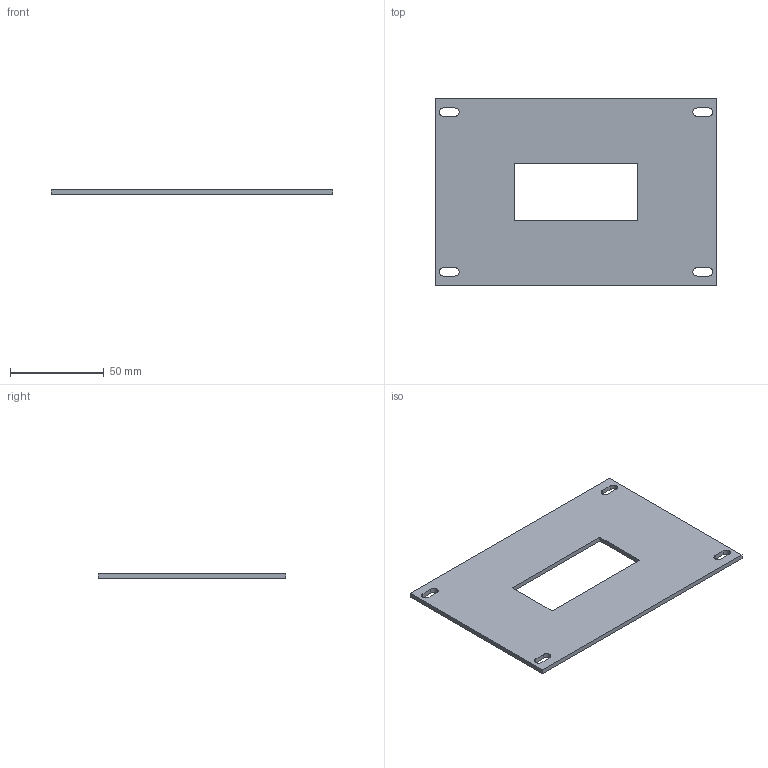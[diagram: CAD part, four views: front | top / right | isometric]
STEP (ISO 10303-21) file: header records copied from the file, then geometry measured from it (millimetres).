
FILE_DESCRIPTION(('Open CASCADE Model'),'2;1');
FILE_NAME('Open CASCADE Shape Model','2026-09-13T22:06:44',('Author'),( 'Open CASCADE'),'Open CASCADE STEP processor 7.9','Open CASCADE 7.9' ,'Unknown');
FILE_SCHEMA(('AUTOMOTIVE_DESIGN { 1 0 10303 214 1 1 1 1 }'));
Length unit declared in the file: millimetre
Products named in the file (1): Open CASCADE STEP translator 7.9 2
Bounding box: 150 x 100 x 2.5 mm (x, y, z)
Volume: 32121 mm3; surface area: 27688.1 mm2
Topology: 1 solids, 1 shells, 26 faces, 72 edges, 48 vertices
Faces by surface type: plane 18, cylinder 8
Entity records: 1798 total; most frequent: CARTESIAN_POINT 435, DIRECTION 222, ORIENTED_EDGE 144, PCURVE 144, DEFINITIONAL_REPRESENTATION 144, LINE 136, VECTOR 136, EDGE_CURVE 72
